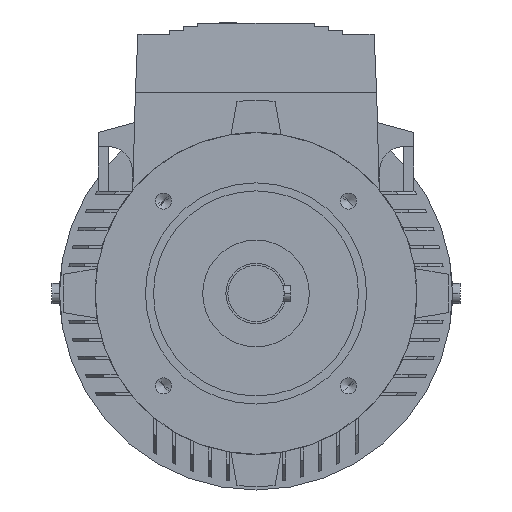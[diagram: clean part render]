
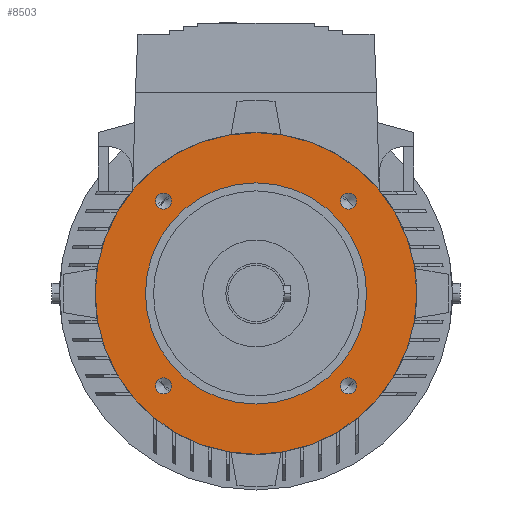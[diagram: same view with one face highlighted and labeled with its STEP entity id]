
A CAD part, left-side view. The second image highlights one B-rep face of the part: STEP entity #8503.
In plain terms, the highlighted planar face has unit normal (-1, 0, 0).
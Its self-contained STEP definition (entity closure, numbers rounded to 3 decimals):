
#3193=VERTEX_POINT('',#9388);
#3285=VERTEX_POINT('',#9488);
#3695=VERTEX_POINT('',#9931);
#3867=EDGE_CURVE('',#3285,#7891,#10126,.T.);
#4075=VERTEX_POINT('',#10355);
#4127=EDGE_CURVE('',#4341,#3695,#10415,.T.);
#4145=EDGE_CURVE('',#6119,#3193,#10436,.T.);
#4147=EDGE_CURVE('',#3193,#6119,#10438,.T.);
#4175=EDGE_CURVE('',#6265,#7901,#10468,.T.);
#4341=VERTEX_POINT('',#10654);
#5225=VERTEX_POINT('',#11620);
#5507=VERTEX_POINT('',#11923);
#5519=EDGE_CURVE('',#5225,#5507,#11936,.T.);
#5741=VERTEX_POINT('',#12177);
#6039=EDGE_CURVE('',#3695,#4341,#12495,.T.);
#6119=VERTEX_POINT('',#12584);
#6229=EDGE_CURVE('',#7901,#6265,#12705,.T.);
#6265=VERTEX_POINT('',#12750);
#6513=EDGE_CURVE('',#5741,#4075,#13028,.T.);
#7891=VERTEX_POINT('',#14514);
#7901=VERTEX_POINT('',#14526);
#8259=EDGE_CURVE('',#7891,#3285,#14914,.T.);
#8323=EDGE_CURVE('',#4075,#5741,#14982,.T.);
#8479=EDGE_CURVE('',#5507,#5225,#15151,.T.);
#8503=ADVANCED_FACE('',(#15178,#15179,#15180,#15181,#15182,#15183),#15184,.T.);
#9388=CARTESIAN_POINT('',(-37.0,0.0,55.0));
#9488=CARTESIAN_POINT('',(-37.0,43.134,48.79));
#9931=CARTESIAN_POINT('',(-37.0,-43.134,-48.79));
#10126=CIRCLE('',#17372,4.0);
#10355=CARTESIAN_POINT('',(-37.0,48.79,-43.134));
#10415=CIRCLE('',#17816,4.0);
#10436=CIRCLE('',#17845,55.0);
#10438=CIRCLE('',#17848,55.0);
#10468=CIRCLE('',#17908,4.0);
#10654=CARTESIAN_POINT('',(-37.0,-48.79,-43.134));
#11620=CARTESIAN_POINT('',(-37.0,0.,-80.0));
#11923=CARTESIAN_POINT('',(-37.0,0.0,80.0));
#11936=CIRCLE('',#20326,80.0);
#12177=CARTESIAN_POINT('',(-37.0,43.134,-48.79));
#12495=CIRCLE('',#21188,4.0);
#12584=CARTESIAN_POINT('',(-37.0,0.,-55.0));
#12705=CIRCLE('',#21534,4.0);
#12750=CARTESIAN_POINT('',(-37.0,-48.79,43.134));
#13028=CIRCLE('',#22008,4.0);
#14514=CARTESIAN_POINT('',(-37.0,48.79,43.134));
#14526=CARTESIAN_POINT('',(-37.0,-43.134,48.79));
#14914=CIRCLE('',#25096,4.0);
#14982=CIRCLE('',#25222,4.0);
#15151=CIRCLE('',#25524,80.0);
#15178=FACE_BOUND('',#25559,.T.);
#15179=FACE_BOUND('',#25560,.T.);
#15180=FACE_BOUND('',#25561,.T.);
#15181=FACE_BOUND('',#25562,.T.);
#15182=FACE_OUTER_BOUND('',#25563,.T.);
#15183=FACE_BOUND('',#25564,.T.);
#15184=PLANE('',#25565);
#17372=AXIS2_PLACEMENT_3D('',#27806,#27807,#27808);
#17816=AXIS2_PLACEMENT_3D('',#28119,#28120,#28121);
#17845=AXIS2_PLACEMENT_3D('',#28156,#28157,#28158);
#17848=AXIS2_PLACEMENT_3D('',#28159,#28160,#28161);
#17908=AXIS2_PLACEMENT_3D('',#28185,#28186,#28187);
#20326=AXIS2_PLACEMENT_3D('',#29917,#29918,#29919);
#21188=AXIS2_PLACEMENT_3D('',#30529,#30530,#30531);
#21534=AXIS2_PLACEMENT_3D('',#30768,#30769,#30770);
#22008=AXIS2_PLACEMENT_3D('',#31231,#31232,#31233);
#25096=AXIS2_PLACEMENT_3D('',#33178,#33179,#33180);
#25222=AXIS2_PLACEMENT_3D('',#33231,#33232,#33233);
#25524=AXIS2_PLACEMENT_3D('',#33401,#33402,#33403);
#25559=EDGE_LOOP('',(#33451,#33452));
#25560=EDGE_LOOP('',(#33453,#33454));
#25561=EDGE_LOOP('',(#33455,#33456));
#25562=EDGE_LOOP('',(#33457,#33458));
#25563=EDGE_LOOP('',(#33459,#33460));
#25564=EDGE_LOOP('',(#33461,#33462));
#25565=AXIS2_PLACEMENT_3D('',#33463,#33464,#33465);
#27806=CARTESIAN_POINT('',(-37.0,45.962,45.962));
#27807=DIRECTION('',(1.0,0.0,0.0));
#27808=DIRECTION('',(0.0,-0.707,0.707));
#28119=CARTESIAN_POINT('',(-37.0,-45.962,-45.962));
#28120=DIRECTION('',(1.0,0.0,0.0));
#28121=DIRECTION('',(0.0,0.707,-0.707));
#28156=CARTESIAN_POINT('',(-37.0,0.0,0.0));
#28157=DIRECTION('',(1.0,0.0,0.0));
#28158=DIRECTION('',(0.0,0.0,1.0));
#28159=CARTESIAN_POINT('',(-37.0,0.0,0.0));
#28160=DIRECTION('',(1.0,0.0,0.0));
#28161=DIRECTION('',(0.0,0.0,1.0));
#28185=CARTESIAN_POINT('',(-37.0,-45.962,45.962));
#28186=DIRECTION('',(1.0,0.0,0.0));
#28187=DIRECTION('',(0.0,-0.707,-0.707));
#29917=CARTESIAN_POINT('',(-37.0,0.0,0.0));
#29918=DIRECTION('',(1.0,0.0,0.0));
#29919=DIRECTION('',(0.0,0.0,1.0));
#30529=CARTESIAN_POINT('',(-37.0,-45.962,-45.962));
#30530=DIRECTION('',(1.0,0.0,0.0));
#30531=DIRECTION('',(0.0,0.707,-0.707));
#30768=CARTESIAN_POINT('',(-37.0,-45.962,45.962));
#30769=DIRECTION('',(1.0,0.0,0.0));
#30770=DIRECTION('',(0.0,-0.707,-0.707));
#31231=CARTESIAN_POINT('',(-37.0,45.962,-45.962));
#31232=DIRECTION('',(1.0,0.0,0.0));
#31233=DIRECTION('',(0.0,0.707,0.707));
#33178=CARTESIAN_POINT('',(-37.0,45.962,45.962));
#33179=DIRECTION('',(1.0,0.0,0.0));
#33180=DIRECTION('',(0.0,-0.707,0.707));
#33231=CARTESIAN_POINT('',(-37.0,45.962,-45.962));
#33232=DIRECTION('',(1.0,0.0,0.0));
#33233=DIRECTION('',(0.0,0.707,0.707));
#33401=CARTESIAN_POINT('',(-37.0,0.0,0.0));
#33402=DIRECTION('',(1.0,0.0,0.0));
#33403=DIRECTION('',(0.0,0.0,1.0));
#33451=ORIENTED_EDGE('',*,*,#4175,.T.);
#33452=ORIENTED_EDGE('',*,*,#6229,.T.);
#33453=ORIENTED_EDGE('',*,*,#3867,.T.);
#33454=ORIENTED_EDGE('',*,*,#8259,.T.);
#33455=ORIENTED_EDGE('',*,*,#8323,.T.);
#33456=ORIENTED_EDGE('',*,*,#6513,.T.);
#33457=ORIENTED_EDGE('',*,*,#6039,.T.);
#33458=ORIENTED_EDGE('',*,*,#4127,.T.);
#33459=ORIENTED_EDGE('',*,*,#8479,.F.);
#33460=ORIENTED_EDGE('',*,*,#5519,.F.);
#33461=ORIENTED_EDGE('',*,*,#4147,.T.);
#33462=ORIENTED_EDGE('',*,*,#4145,.T.);
#33463=CARTESIAN_POINT('',(-37.0,0.0,67.5));
#33464=DIRECTION('',(-1.0,0.0,0.0));
#33465=DIRECTION('',(0.0,0.0,-1.0));
